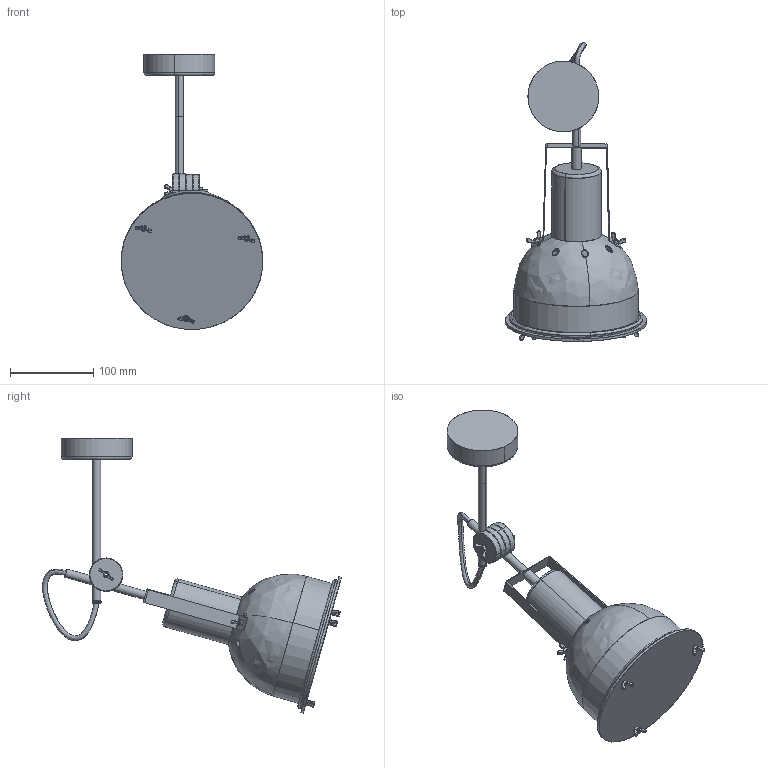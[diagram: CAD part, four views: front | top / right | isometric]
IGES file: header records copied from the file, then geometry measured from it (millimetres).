
Start section: SolidWorks IGES file using analytic representation for surfaces
Global section: file name: C:\Users\Asia\Desktop\INDUSTRIAL\Kinkiet\Industrial S_kinkiet z³o¿ony.IGS; native system: SolidWorks 2016; preprocessor: SolidWorks 2016; author: Asia; date: 161014.112317; units: millimetre
Bounding box: 170.01 x 358.86 x 330.14 mm (x, y, z)
Surface area: 295525.7 mm2 (no closed solid volume)
Topology: 0 solids, 0 shells, 643 faces, 8788 edges, 8787 vertices
Faces by surface type: bspline 377, revolution 266
